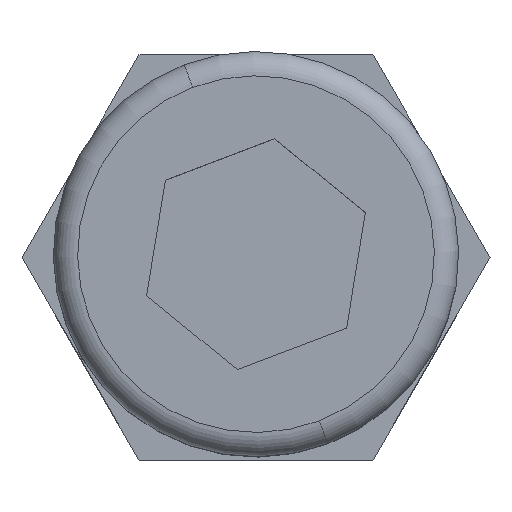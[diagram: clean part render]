
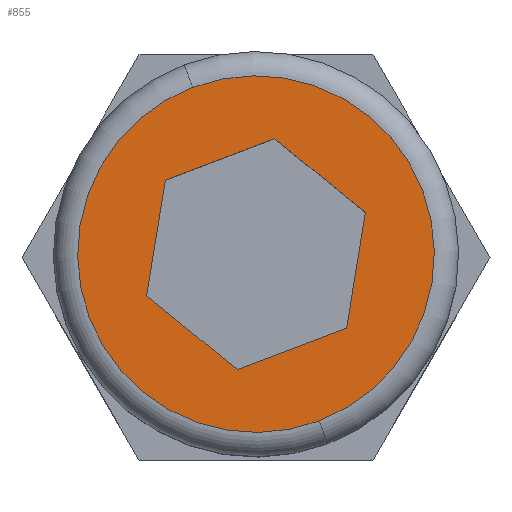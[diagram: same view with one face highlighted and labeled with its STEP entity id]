
A CAD part, top view. The second image highlights one B-rep face of the part: STEP entity #855.
In plain terms, the highlighted planar face has unit normal (0, 0, 1) as drawn and (0, 1, 0) by its records, which use the part's own axes.
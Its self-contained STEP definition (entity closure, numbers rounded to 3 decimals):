
#7 = AXIS2_PLACEMENT_3D ( 'NONE', #414, #569, #482 ) ;
#30 = CARTESIAN_POINT ( 'NONE',  ( 0., 30.3, 0. ) ) ;
#52 = DIRECTION ( 'NONE',  ( 0.5, 0., -0.866 ) ) ;
#62 = ORIENTED_EDGE ( 'NONE', *, *, #365, .T. ) ;
#78 = EDGE_CURVE ( 'NONE', #558, #145, #332, .T. ) ;
#99 = AXIS2_PLACEMENT_3D ( 'NONE', #188, #283, #362 ) ;
#109 = VECTOR ( 'NONE', #668, 1000. ) ;
#121 = ORIENTED_EDGE ( 'NONE', *, *, #631, .F. ) ;
#122 = EDGE_LOOP ( 'NONE', ( #591, #728, #579, #121, #420, #386 ) ) ;
#140 = CARTESIAN_POINT ( 'NONE',  ( 0., 30.3, -2.5 ) ) ;
#145 = VERTEX_POINT ( 'NONE', #633 ) ;
#166 = EDGE_CURVE ( 'NONE', #489, #410, #475, .T. ) ;
#176 = VERTEX_POINT ( 'NONE', #894 ) ;
#187 = EDGE_CURVE ( 'NONE', #845, #829, #905, .T. ) ;
#188 = CARTESIAN_POINT ( 'NONE',  ( 0., 30.3, 0. ) ) ;
#193 = CARTESIAN_POINT ( 'NONE',  ( -2.165, 30.3, -1.25 ) ) ;
#195 = VECTOR ( 'NONE', #885, 1000. ) ;
#197 = CARTESIAN_POINT ( 'NONE',  ( 0., 30.3, -4.4 ) ) ;
#201 = CIRCLE ( 'NONE', #671, 4.4 ) ;
#244 = ORIENTED_EDGE ( 'NONE', *, *, #187, .T. ) ;
#275 = CARTESIAN_POINT ( 'NONE',  ( 1.443, 30.3, -2.5 ) ) ;
#283 = DIRECTION ( 'NONE',  ( 0., 1., 0. ) ) ;
#290 = LINE ( 'NONE', #140, #342 ) ;
#332 = LINE ( 'NONE', #398, #451 ) ;
#342 = VECTOR ( 'NONE', #769, 1000. ) ;
#343 = PLANE ( 'NONE',  #99 ) ;
#362 = DIRECTION ( 'NONE',  ( 0., 0., 1. ) ) ;
#365 = EDGE_CURVE ( 'NONE', #829, #845, #201, .T. ) ;
#379 = VECTOR ( 'NONE', #52, 1000. ) ;
#386 = ORIENTED_EDGE ( 'NONE', *, *, #951, .F. ) ;
#398 = CARTESIAN_POINT ( 'NONE',  ( -2.165, 30.3, 1.25 ) ) ;
#410 = VERTEX_POINT ( 'NONE', #275 ) ;
#414 = CARTESIAN_POINT ( 'NONE',  ( 0., 30.3, 0. ) ) ;
#415 = LINE ( 'NONE', #1008, #437 ) ;
#420 = ORIENTED_EDGE ( 'NONE', *, *, #166, .F. ) ;
#421 = CARTESIAN_POINT ( 'NONE',  ( 0., 30.3, 4.4 ) ) ;
#424 = DIRECTION ( 'NONE',  ( 0., 1., 0. ) ) ;
#425 = FACE_BOUND ( 'NONE', #122, .T. ) ;
#432 = EDGE_LOOP ( 'NONE', ( #62, #244 ) ) ;
#437 = VECTOR ( 'NONE', #936, 1000. ) ;
#451 = VECTOR ( 'NONE', #947, 1000. ) ;
#475 = LINE ( 'NONE', #720, #195 ) ;
#482 = DIRECTION ( 'NONE',  ( 0., 0., 1. ) ) ;
#483 = EDGE_CURVE ( 'NONE', #780, #558, #613, .T. ) ;
#489 = VERTEX_POINT ( 'NONE', #999 ) ;
#558 = VERTEX_POINT ( 'NONE', #621 ) ;
#569 = DIRECTION ( 'NONE',  ( 0., 1., 0. ) ) ;
#579 = ORIENTED_EDGE ( 'NONE', *, *, #483, .F. ) ;
#583 = DIRECTION ( 'NONE',  ( 0., 0., 1. ) ) ;
#591 = ORIENTED_EDGE ( 'NONE', *, *, #609, .F. ) ;
#609 = EDGE_CURVE ( 'NONE', #145, #176, #415, .T. ) ;
#613 = LINE ( 'NONE', #193, #109 ) ;
#621 = CARTESIAN_POINT ( 'NONE',  ( -2.887, 30.3, 0. ) ) ;
#631 = EDGE_CURVE ( 'NONE', #410, #780, #290, .T. ) ;
#633 = CARTESIAN_POINT ( 'NONE',  ( -1.443, 30.3, 2.5 ) ) ;
#668 = DIRECTION ( 'NONE',  ( -0.5, 0., 0.866 ) ) ;
#671 = AXIS2_PLACEMENT_3D ( 'NONE', #30, #424, #583 ) ;
#720 = CARTESIAN_POINT ( 'NONE',  ( 2.165, 30.3, -1.25 ) ) ;
#728 = ORIENTED_EDGE ( 'NONE', *, *, #78, .F. ) ;
#769 = DIRECTION ( 'NONE',  ( -1., 0., 0. ) ) ;
#780 = VERTEX_POINT ( 'NONE', #822 ) ;
#799 = LINE ( 'NONE', #848, #379 ) ;
#822 = CARTESIAN_POINT ( 'NONE',  ( -1.443, 30.3, -2.5 ) ) ;
#829 = VERTEX_POINT ( 'NONE', #421 ) ;
#845 = VERTEX_POINT ( 'NONE', #197 ) ;
#848 = CARTESIAN_POINT ( 'NONE',  ( 2.165, 30.3, 1.25 ) ) ;
#855 = ADVANCED_FACE ( 'NONE', ( #893, #425 ), #343, .T. ) ;
#885 = DIRECTION ( 'NONE',  ( -0.5, 0., -0.866 ) ) ;
#893 = FACE_OUTER_BOUND ( 'NONE', #432, .T. ) ;
#894 = CARTESIAN_POINT ( 'NONE',  ( 1.443, 30.3, 2.5 ) ) ;
#905 = CIRCLE ( 'NONE', #7, 4.4 ) ;
#936 = DIRECTION ( 'NONE',  ( 1., 0., 0. ) ) ;
#947 = DIRECTION ( 'NONE',  ( 0.5, 0., 0.866 ) ) ;
#951 = EDGE_CURVE ( 'NONE', #176, #489, #799, .T. ) ;
#999 = CARTESIAN_POINT ( 'NONE',  ( 2.887, 30.3, 0. ) ) ;
#1008 = CARTESIAN_POINT ( 'NONE',  ( 0., 30.3, 2.5 ) ) ;
